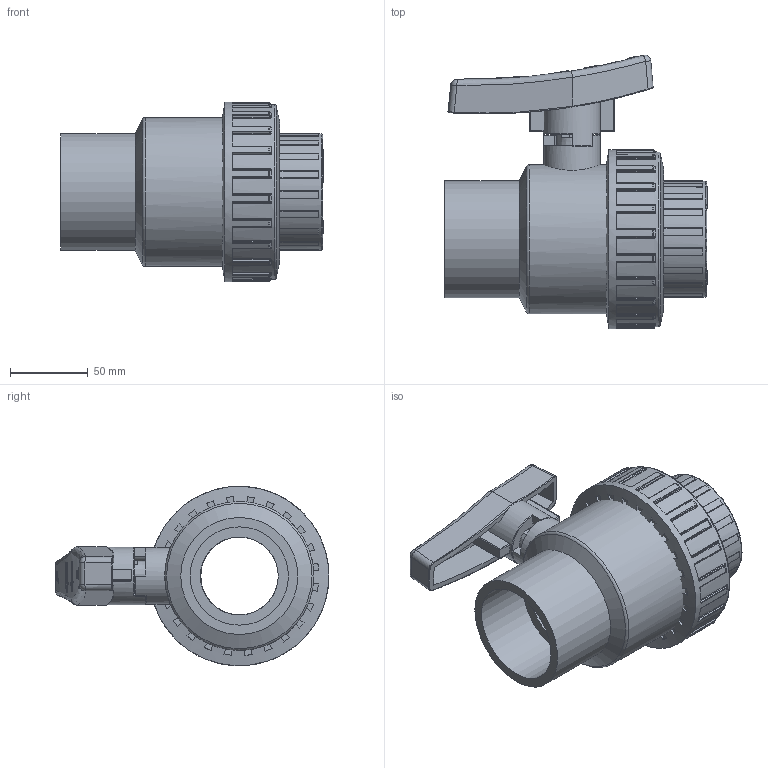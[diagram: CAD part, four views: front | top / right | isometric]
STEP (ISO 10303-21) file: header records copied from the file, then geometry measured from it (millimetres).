
FILE_DESCRIPTION(/* description */ (''),/* implementation_level */ '2;1');
FILE_NAME(/* name */ 'C:\ex desktop\VALVOLE SFERA\BV ACQUA\VALVOLE BVS MM\BVS40\BVS40063\BVS40063_new_handle.stp',/* time_stamp */ '2019-04-17T10:11:48+02:00',/* author */ ('e.sacchi'),/* organization */ (''),/* preprocessor_version */ 'ST-DEVELOPER v16.13',/* originating_system */ 'Autodesk Inventor 2018',/* authorisation */ '');
FILE_SCHEMA (('AUTOMOTIVE_DESIGN { 1 0 10303 214 3 1 1 }'));
Length unit declared in the file: millimetre
Products named in the file (13): BVS10063; CORPO_BVS_10_d_63; asta_BVD_40_d_63; sfera_BVI_10_d_63; LAV0119E; maniglia_BVI_10_d_63; supporto_BVD_40_d_63; LAV3225E; PTFE_BVI_10_d_63; LAV4275E; LAV6237E; collare_BVD_40_d_63; ghiera_BVD_40_d_63
Assembly tree (15 placements, depth 2):
  BVS10063
    CORPO_BVS_10_d_63
    LAV3225E  x2
    PTFE_BVI_10_d_63  x2
    asta_BVD_40_d_63
    sfera_BVI_10_d_63
    LAV0119E  x2
    maniglia_BVI_10_d_63
    supporto_BVD_40_d_63
    LAV4275E
    LAV6237E
    collare_BVD_40_d_63
    ghiera_BVD_40_d_63
Bounding box: 168.5 x 175.58 x 114.98 mm (x, y, z)
Volume: 719914.5 mm3; surface area: 250740.7 mm2
Topology: 17 solids, 17 shells, 1580 faces, 4100 edges, 2610 vertices
Faces by surface type: plane 584, bspline 414, cylinder 335, torus 162, sphere 51, cone 34
Full cylindrical faces by diameter (mm): 15.692 x1, 17.2 x1, 17.7 x1, 22.5 x1, 36.5 x1, 36.7 x1, 50 x4, 55 x1, 56 x1, 59 x1, 62 x4, 63 x2, 70.5 x1, 74.6 x1, 75 x1, 78.5 x1, 79.54 x1, 81 x2, 81.316 x2, 82.5 x2, 95.5 x6, 112 x1, 115 x1
Entity records: 72812 total; most frequent: CARTESIAN_POINT 35737, ORIENTED_EDGE 8014, DIRECTION 7154, EDGE_CURVE 4007, AXIS2_PLACEMENT_3D 2731, VERTEX_POINT 2579, EDGE_LOOP 1706, LINE 1692
